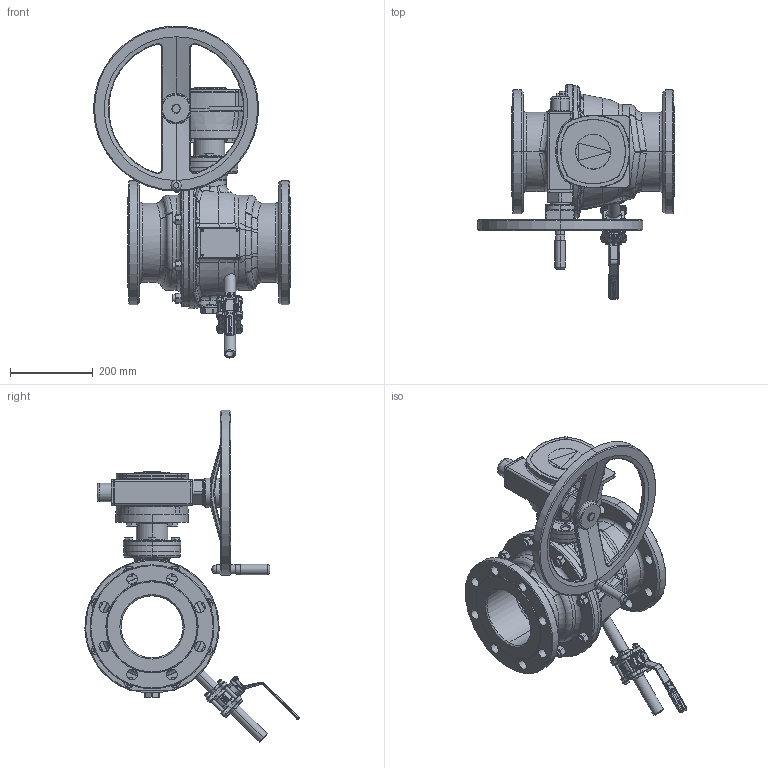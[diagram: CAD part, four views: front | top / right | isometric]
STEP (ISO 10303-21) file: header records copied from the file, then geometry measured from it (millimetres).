
FILE_DESCRIPTION((''),'2;1');
FILE_NAME('250_ASM','2017-01-17T',('schwaba'),('RAND'),'PRO/ENGINEER BY PARAMETRIC TECHNOLOGY CORPORATION, 2016100','PRO/ENGINEER BY PARAMETRIC TECHNOLOGY CORPORATION, 2016100','');
FILE_SCHEMA(('CONFIG_CONTROL_DESIGN'));
Products named in the file (3): KHI_150_PN25-40_FR_WE_ENTL_O_IT; GS80_F14_AHR400_ZWSTK_DN150; 250_ASM
Assembly tree (2 placements, depth 2):
  250_ASM
    KHI_150_PN25-40_FR_WE_ENTL_O_IT
    GS80_F14_AHR400_ZWSTK_DN150
Bounding box: 477 x 518.41 x 803.79 mm (x, y, z)
Volume: 14653425.8 mm3; surface area: 1885009.4 mm2
Topology: 3 solids, 8 shells, 4274 faces, 10638 edges, 6499 vertices
Faces by surface type: plane 1685, cylinder 881, bspline 617, cone 579, torus 442, sphere 70
Entity records: 233239 total; most frequent: CARTESIAN_POINT 135464, ORIENTED_EDGE 21148, DIRECTION 19535, EDGE_CURVE 10574, AXIS2_PLACEMENT_3D 7288, VERTEX_POINT 6498, VECTOR 4959, LINE 4959
